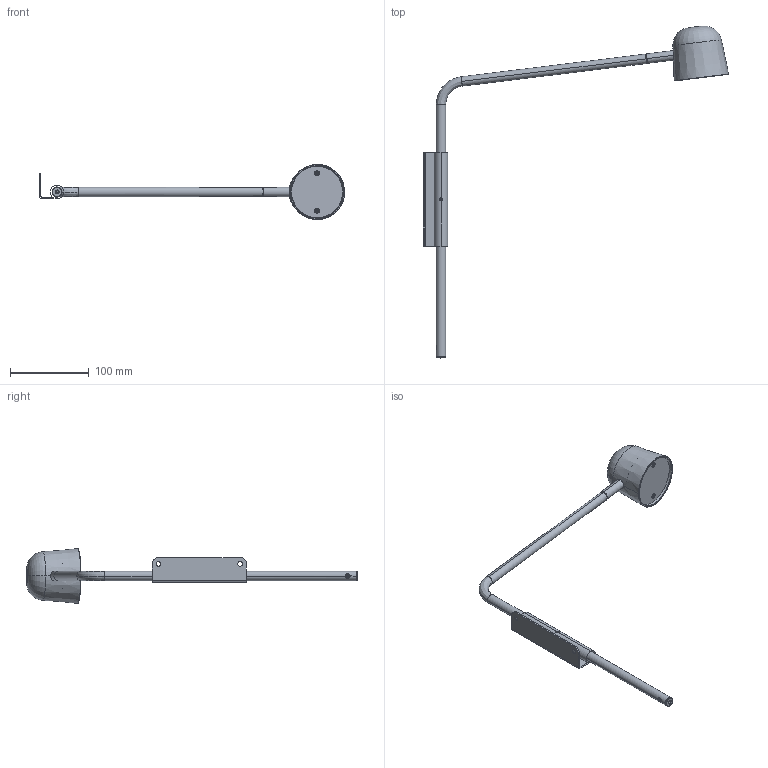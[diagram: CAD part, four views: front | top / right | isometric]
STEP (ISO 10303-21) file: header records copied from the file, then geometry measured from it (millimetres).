
FILE_DESCRIPTION (( 'STEP AP203' ), '1' );
FILE_NAME ('Satellite Wall Lamp.STEP', '2023-11-29T08:31:13', ( '' ), ( '' ), 'SwSTEP 2.0', 'SolidWorks 2022', '' );
FILE_SCHEMA (( 'CONFIG_CONTROL_DESIGN' ));
Length unit declared in the file: millimetre
Products named in the file (1): Satellite Wall Lamp
Bounding box: 388.74 x 422.82 x 69.94 mm (x, y, z)
Surface area: 61775 mm2 (no closed solid volume)
Topology: 0 solids, 11 shells, 95 faces, 310 edges, 221 vertices
Faces by surface type: plane 29, cylinder 28, cone 20, bspline 16, torus 2
Entity records: 4380 total; most frequent: CARTESIAN_POINT 1658, DIRECTION 564, ORIENTED_EDGE 498, EDGE_CURVE 308, VERTEX_POINT 221, AXIS2_PLACEMENT_3D 212, VECTOR 140, LINE 140
